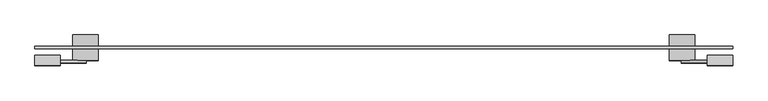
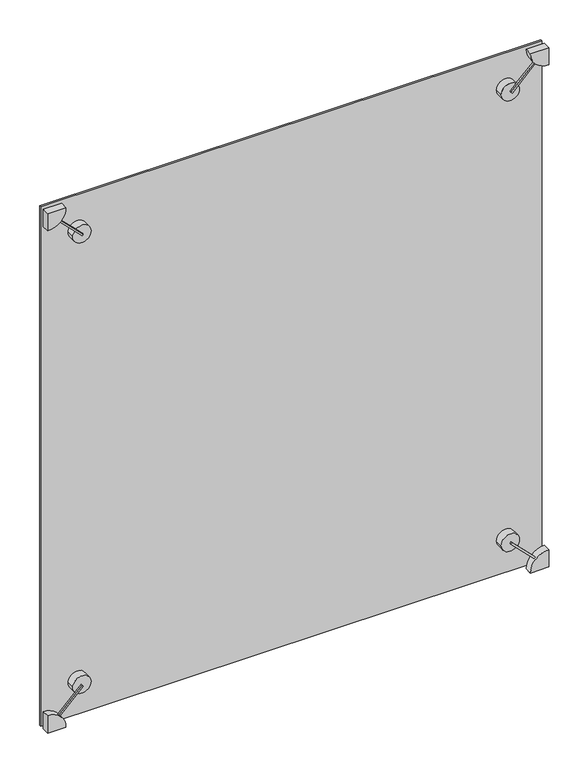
"""IFC4 building model written with IfcOpenShell, lengths in millimetres: plate geometry, 点爪式幕墙嵌板 : 点爪式幕墙嵌板."""

from ifc_helpers import new_model, si_unit, point, frame, frame_2d, origin, origin_with_axes, place, context, project, spatial, polyline, circle_curve, trimmed, segment, composite_curve, outline, extrude, source, transform, mapped, element, save
from ifc_brep_helpers import plane_surface, cylinder_surface, advanced_brep


def plate_31661a44(model_context):
    return source(origin(), model_context, "Body", "SolidModel", [
        extrude(outline(polyline([(0.0, -10.0), (0.0, 0.0), (10.0, 0.0), (10.0, -10.0), (0.0, -10.0)])), frame((-1303.7667022, -60.0, 73.3043656), z_axis=(0.7071067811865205, 0.0, 0.7071067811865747), x_axis=(0.0, 1.0, 0.0)), (0.0, 0.0, 1.0), 181.331972),
        extrude(outline(composite_curve([segment(trimmed(circle_curve(frame_2d((0.0, -1370.0)), 100.0), [point((0.0, -1270.0))], [point((100.0, -1370.0))], False, "CARTESIAN"), True, "CONTINUOUS"), segment(polyline([(100.0, -1370.0), (0.0, -1370.0), (0.0, -1270.0)]), True, "CONTINUOUS")], self_intersect=False)), frame((0.0, -70.0, 0.0), z_axis=(0.0, 1.0, 0.0), x_axis=(0.0, 0.0, 1.0)), (0.0, 0.0, 1.0), 40.0),
        extrude(outline(composite_curve([segment(trimmed(circle_curve(frame_2d((199.0051024, -1170.9948976)), 50.0), [point((199.0051024, -1120.9948976))], [point((199.0051024, -1220.9948976))], False, "CARTESIAN"), True, "CONTINUOUS"), segment(trimmed(circle_curve(frame_2d((199.0051024, -1170.9948976)), 50.0), [point((199.0051024, -1220.9948976))], [point((199.0051024, -1120.9948976))], False, "CARTESIAN"), True, "CONTINUOUS")], self_intersect=False)), frame((0.0, -50.0, 0.0), z_axis=(0.0, 1.0, 0.0), x_axis=(0.0, 0.0, 1.0)), (0.0, 0.0, 1.0), 100.0),
        extrude(outline(polyline([(0.0, -181.3319719), (0.0, 0.0), (10.0, 0.0), (10.0, -181.3319719), (0.0, -181.3319719)])), frame((1168.4745674, -60.0, 194.4543648), z_axis=(0.7071067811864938, 0.0, 0.7071067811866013), x_axis=(0.0, 1.0, 0.0)), (0.0, 0.0, 1.0), 10.0),
        extrude(outline(composite_curve([segment(polyline([(0.0, 1270.0), (0.0, 1370.0), (100.0, 1370.0)]), True, "CONTINUOUS"), segment(trimmed(circle_curve(frame_2d((0.0, 1370.0)), 100.0), [point((100.0, 1370.0))], [point((0.0, 1270.0))], False, "CARTESIAN"), True, "CONTINUOUS")], self_intersect=False)), frame((0.0, -70.0, 0.0), z_axis=(0.0, 1.0, 0.0), x_axis=(0.0, 0.0, 1.0)), (0.0, 0.0, 1.0), 40.0),
        extrude(outline(composite_curve([segment(trimmed(circle_curve(frame_2d((199.0051024, 1170.9948976)), 50.0), [point((199.0051024, 1120.9948976))], [point((199.0051024, 1220.9948976))], False, "CARTESIAN"), True, "CONTINUOUS"), segment(trimmed(circle_curve(frame_2d((199.0051024, 1170.9948976)), 50.0), [point((199.0051024, 1220.9948976))], [point((199.0051024, 1120.9948976))], False, "CARTESIAN"), True, "CONTINUOUS")], self_intersect=False)), frame((0.0, -50.0, 0.0), z_axis=(0.0, 1.0, 0.0), x_axis=(0.0, 0.0, 1.0)), (0.0, 0.0, 1.0), 100.0),
        extrude(outline(polyline([(0.0, -181.3319719), (0.0, 0.0), (10.0, 0.0), (10.0, -181.3319719), (0.0, -181.3319719)])), frame((-1303.7667022, -60.0, 2926.6956344), z_axis=(0.7071067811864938, 0.0, 0.7071067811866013), x_axis=(0.0, 1.0, 0.0)), (0.0, 0.0, 1.0), 10.0),
        extrude(outline(composite_curve([segment(polyline([(3000.0, -1270.0), (3000.0, -1370.0), (2900.0, -1370.0)]), True, "CONTINUOUS"), segment(trimmed(circle_curve(frame_2d((3000.0, -1370.0)), 100.0), [point((2900.0, -1370.0))], [point((3000.0, -1270.0))], False, "CARTESIAN"), True, "CONTINUOUS")], self_intersect=False)), frame((0.0, -70.0, 0.0), z_axis=(0.0, 1.0, 0.0), x_axis=(0.0, 0.0, 1.0)), (0.0, 0.0, 1.0), 40.0),
        extrude(outline(composite_curve([segment(trimmed(circle_curve(frame_2d((2800.9948976, -1170.9948976)), 50.0), [point((2800.9948976, -1120.9948976))], [point((2800.9948976, -1220.9948976))], False, "CARTESIAN"), True, "CONTINUOUS"), segment(trimmed(circle_curve(frame_2d((2800.9948976, -1170.9948976)), 50.0), [point((2800.9948976, -1220.9948976))], [point((2800.9948976, -1120.9948976))], False, "CARTESIAN"), True, "CONTINUOUS")], self_intersect=False)), frame((0.0, -50.0, 0.0), z_axis=(0.0, 1.0, 0.0), x_axis=(0.0, 0.0, 1.0)), (0.0, 0.0, 1.0), 100.0),
        advanced_brep(
        [(1120.9948976, -50.0, 2800.9948976), (1220.9948976, -50.0, 2800.9948976), (1209.7085497, -50.0, 2832.6374819), (1175.5456352, -50.0, 2798.4745674), (1168.4745674, -50.0, 2805.5456352), (1202.6374819, -50.0, 2839.7085497), (1120.9948976, 50.0, 2800.9948976), (1220.9948976, 50.0, 2800.9948976), (1168.4745674, -60.0, 2805.5456352), (1175.5456352, -60.0, 2798.4745674), (1302.9132994, -60.0, 2925.8422316), (1295.8422316, -60.0, 2932.9132994), (1295.8422316, -50.0, 2932.9132994), (1302.9132994, -50.0, 2925.8422316), (1270.0, -70.0, 3000.0), (1370.0, -70.0, 2900.0), (1370.0, -70.0, 3000.0), (1270.0, -30.0, 3000.0), (1370.0, -30.0, 3000.0), (1370.0, -30.0, 2900.0)],
        [
            (0, 1, circle_curve(frame((1170.9948976, -50.0, 2800.9948976), z_axis=(0.0, -1.0, 0.0), x_axis=(1.0, 0.0, 0.0)), 50.0)),
            (1, 2, circle_curve(frame((1170.9948976, -50.0, 2800.9948976), z_axis=(0.0, -1.0, 0.0), x_axis=(1.0, 0.0, 0.0)), 50.0)),
            (2, 3),
            (3, 4),
            (4, 5),
            (5, 0, circle_curve(frame((1170.9948976, -50.0, 2800.9948976), z_axis=(0.0, -1.0, 0.0), x_axis=(1.0, 0.0, 0.0)), 50.0)),
            (6, 7, circle_curve(frame((1170.9948976, 50.0, 2800.9948976), z_axis=(0.0, 1.0, 0.0), x_axis=(1.0, 0.0, 0.0)), 50.0)),
            (7, 6, circle_curve(frame((1170.9948976, 50.0, 2800.9948976), z_axis=(0.0, 1.0, 0.0), x_axis=(1.0, 0.0, 0.0)), 50.0)),
            (0, 6),
            (7, 1),
            (5, 2, circle_curve(frame((1170.9948976, -50.0, 2800.9948976), z_axis=(0.0, 1.0, 0.0), x_axis=(1.0, 0.0, 0.0)), 50.0)),
            (8, 9),
            (9, 10),
            (10, 11, circle_curve(frame((1370.0, -60.0, 3000.0), z_axis=(0.0, 1.0, 0.0), x_axis=(1.0, 0.0, 0.0)), 100.0)),
            (11, 8),
            (5, 12),
            (12, 13, circle_curve(frame((1370.0, -50.0, 3000.0), z_axis=(0.0, -1.0, 0.0), x_axis=(1.0, 0.0, 0.0)), 100.0)),
            (13, 2),
            (4, 8),
            (11, 12),
            (3, 9),
            (13, 10),
            (14, 15, circle_curve(frame((1370.0, -70.0, 3000.0), z_axis=(0.0, -1.0, 0.0), x_axis=(1.0, 0.0, 0.0)), 100.0)),
            (15, 16),
            (16, 14),
            (17, 18),
            (18, 19),
            (19, 17, circle_curve(frame((1370.0, -30.0, 3000.0), z_axis=(0.0, 1.0, 0.0), x_axis=(1.0, 0.0, 0.0)), 100.0)),
            (14, 17),
            (19, 15),
            (18, 16),
        ],
        [
            plane_surface(frame((1220.9948976, -50.0, 2800.9948976), z_axis=(0.0, -1.0, 0.0), x_axis=(0.0, 0.0, 1.0))),
            plane_surface(frame((1220.9948976, 50.0, 2800.9948976), z_axis=(0.0, 1.0, 0.0), x_axis=(0.0, 0.0, -1.0))),
            cylinder_surface(frame((1170.9948976, 50.0, 2800.9948976), z_axis=(0.0, -1.0, 0.0), x_axis=(1.0, 0.0, 0.0)), 50.0),
            plane_surface(frame((1168.4745674, -60.0, 2805.5456352), z_axis=(0.0, -1.0000000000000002, 0.0), x_axis=(-0.7071067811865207, 0.0, -0.7071067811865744))),
            plane_surface(frame((1168.4745674, -50.0, 2805.5456352), z_axis=(0.0, 1.0000000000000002, 0.0), x_axis=(0.7071067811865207, 0.0, 0.7071067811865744))),
            plane_surface(frame((1296.6956344, -60.0, 2933.7667022), z_axis=(-0.7071067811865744, 0.0, 0.7071067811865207), x_axis=(0.0, 1.0, 0.0))),
            plane_surface(frame((1168.4745674, -60.0, 2805.5456352), z_axis=(-0.7071067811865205, 0.0, -0.7071067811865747), x_axis=(0.0, 1.0, 0.0))),
            plane_surface(frame((1175.5456352, -60.0, 2798.4745674), z_axis=(0.7071067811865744, 0.0, -0.7071067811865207), x_axis=(0.0, 1.0, 0.0))),
            plane_surface(frame((1470.0, -70.0, 3000.0), z_axis=(0.0, -1.0, 0.0), x_axis=(0.0, 0.0, 1.0))),
            plane_surface(frame((1470.0, -30.0, 3000.0), z_axis=(0.0, 1.0, 0.0), x_axis=(0.0, 0.0, -1.0))),
            cylinder_surface(frame((1370.0, -30.0, 3000.0), z_axis=(0.0, -1.0, 0.0), x_axis=(1.0, 0.0, 0.0)), 100.0),
            plane_surface(frame((1370.0, -70.0, 2900.0), z_axis=(1.0, 0.0, 0.0), x_axis=(0.0, 1.0, 0.0))),
            plane_surface(frame((1370.0, -70.0, 3000.0), z_axis=(0.0, 0.0, 1.0), x_axis=(0.0, 1.0, 0.0))),
        ],
        [
            (0, [[1, 2, 3, 4, 5, 6]]),
            (1, [[7, 8]]),
            (2, [[-1, 9, -8, 10]]),
            (2, [[-7, -9, -6, 11, -2, -10]]),
            (3, [[12, 13, 14, 15]]),
            (4, [[-11, 16, 17, 18]]),
            (5, [[19, -15, 20, -16, -5]]),
            (6, [[-12, -19, -4, 21]]),
            (7, [[-21, -3, -18, 22, -13]]),
            (8, [[23, 24, 25]]),
            (9, [[26, 27, 28]]),
            (10, [[-23, 29, -28, 30], [-14, -22, -17, -20]]),
            (11, [[-24, -30, -27, 31]]),
            (12, [[-25, -31, -26, -29]]),
        ],
    ),
        extrude(outline(polyline([(1370.0, 5.0), (1370.0, -5.0), (-1370.0, -5.0), (-1370.0, 5.0), (1370.0, 5.0)])), origin_with_axes(), (0.0, 0.0, 1.0), 3000.0),
    ])


if __name__ == "__main__":
    model = new_model("IFC4")
    model_context = context("Model", 3, world=origin())
    ifc_project = project(units=[si_unit("LENGTHUNIT", "METRE", prefix="MILLI")], contexts=[model_context])
    site = spatial("IfcSite", under=ifc_project)
    building = spatial("IfcBuilding", under=site)
    placement = place(None, origin())
    plate_shape = plate_31661a44(model_context)
    element("IfcPlate", 1, ObjectType="点爪式幕墙嵌板 : 点爪式幕墙嵌板", at=placement, inside=building, context=model_context, shape_type="MappedRepresentation", body=[
        mapped(plate_shape, transform((0.0, 0.0, 0.0), x_axis=(1.0, 0.0, 0.0), y_axis=(0.0, 1.0, 0.0), z_axis=(0.0, 0.0, 1.0))),
    ])
    save(model, "model.ifc")
